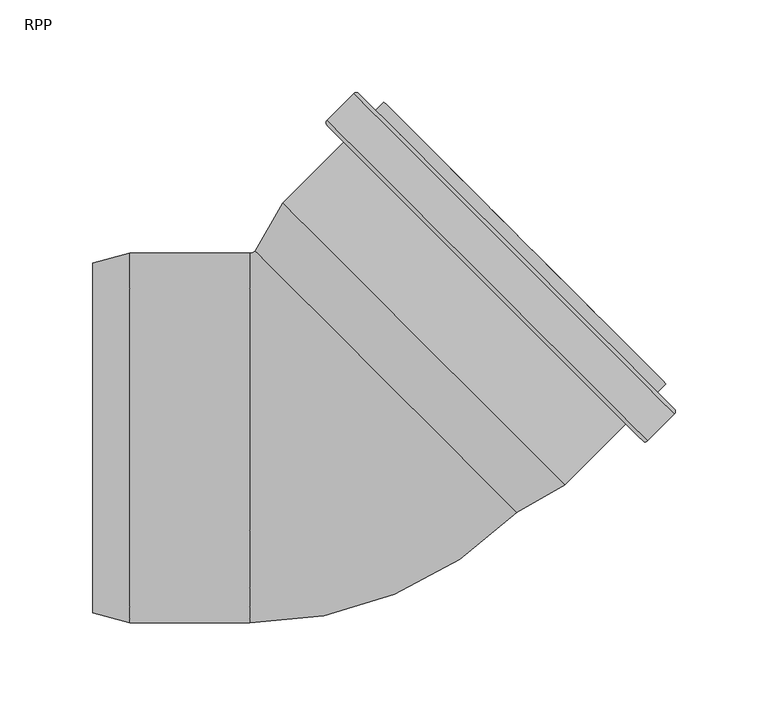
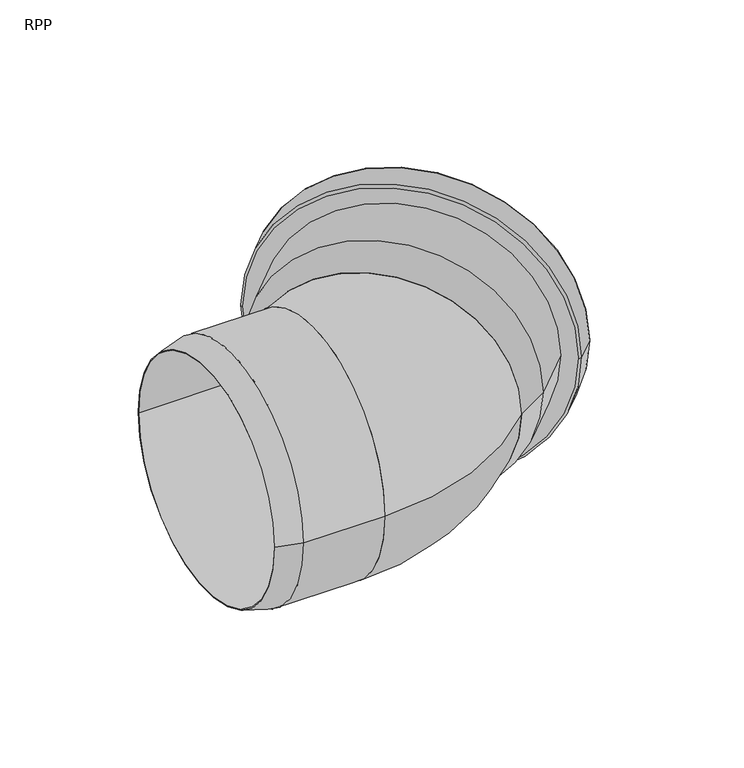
"""IFC4 building model written with IfcOpenShell, lengths in millimetres: pipe fitting geometry, RAUPIANO PLUS Bend : RPP."""

import ifcopenshell
import ifcopenshell.guid

model = None  # the IFC model being written
_history = None  # IfcOwnerHistory: only IFC2X3 demands one
_inside = {}  # id of a spatial element -> (the spatial element, [elements in it])
_under = {}  # id of a project, library or spatial element -> (it, [spatial elements below it])
_declared = {}  # id of a project -> (the project, [libraries it declares])
_typed = {}  # id of a type object -> (the type object, [elements of that type])
_made_of = {}  # id of a material, layer set ... -> (it, [elements and type objects made of it])


def new_model(schema):
    """Start an empty IFC model of exactly this schema.

    Asked for "IFC4X3", IfcOpenShell would pick the latest addendum, in which some entities
    have other attributes; the version numbers below select the first issue.
    IFC2X3 requires an IfcOwnerHistory on every rooted entity: one is made here for all.
    """
    global model, _history
    if schema == "IFC4X3":
        model = ifcopenshell.file(schema_version=(4, 3, 0, 0))
    else:
        model = ifcopenshell.file(schema=schema)
    _inside.clear()
    _under.clear()
    _declared.clear()
    _typed.clear()
    _made_of.clear()
    _history = None
    if model.schema == "IFC2X3":
        org = make("IfcOrganization", Name="unknown")
        user = make(
            "IfcPersonAndOrganization",
            ThePerson=make("IfcPerson", FamilyName="unknown"),
            TheOrganization=org,
        )
        app = make(
            "IfcApplication",
            ApplicationDeveloper=org,
            Version="unknown",
            ApplicationFullName="unknown",
            ApplicationIdentifier="unknown",
        )
        _history = make(
            "IfcOwnerHistory",
            OwningUser=user,
            OwningApplication=app,
            ChangeAction="ADDED",
            CreationDate=0,
        )
    return model


def make(cls, **values):
    """One entity of the class cls with the attributes given. An attribute that is None is left unset."""
    return model.create_entity(
        cls, **{name: value for name, value in values.items() if value is not None}
    )


def rooted(cls, **values):
    """An entity with a GlobalId (a new one), such as an element, a storey or a relation."""
    return make(cls, GlobalId=ifcopenshell.guid.new(), OwnerHistory=_history, **values)


def si_unit(unit_type, name, prefix=None):
    """IfcSIUnit, for example si_unit("LENGTHUNIT", "METRE", prefix="MILLI")."""
    return make("IfcSIUnit", UnitType=unit_type, Prefix=prefix, Name=name)


def assignment(units):
    """IfcUnitAssignment: the units of a project."""
    return None if units is None else make("IfcUnitAssignment", Units=units)


def point(xyz):
    """IfcCartesianPoint."""
    return None if xyz is None else make("IfcCartesianPoint", Coordinates=xyz)


def direction(xyz):
    """IfcDirection."""
    return None if xyz is None else make("IfcDirection", DirectionRatios=xyz)


def frame(location, z_axis=None, x_axis=None):
    """IfcAxis2Placement3D, a coordinate frame: its origin and axes. An axis left out is left unset."""
    return make(
        "IfcAxis2Placement3D",
        Location=point(location),
        Axis=direction(z_axis),
        RefDirection=direction(x_axis),
    )


def origin():
    """The frame at (0, 0, 0) with its axes left unset."""
    return frame((0.0, 0.0, 0.0))


def place(relative_to, where):
    """IfcLocalPlacement: puts the frame where relative to a parent placement (None: the world)."""
    return make(
        "IfcLocalPlacement", PlacementRelTo=relative_to, RelativePlacement=where
    )


def context(
    kind, dimensions, precision=None, world=None, true_north=None, identifier=None
):
    """IfcGeometricRepresentationContext, for example the 3D "Model" context."""
    return make(
        "IfcGeometricRepresentationContext",
        ContextIdentifier=identifier,
        ContextType=kind,
        CoordinateSpaceDimension=dimensions,
        Precision=precision,
        WorldCoordinateSystem=world,
        TrueNorth=true_north,
    )


def project(units=None, contexts=None):
    """IfcProject with its units and contexts."""
    return rooted(
        "IfcProject",
        Name="project",
        RepresentationContexts=contexts,
        UnitsInContext=assignment(units),
    )


def spatial(cls, under=None, at=None, **own):
    """A site, building, storey or space (cls), placed at a placement, below another one or the project."""
    s = rooted(cls, ObjectPlacement=at, **own)
    if under is not None:
        _under.setdefault(under.id(), (under, []))[1].append(s)
    return s


def polyline(points):
    """IfcPolyline through the points."""
    return make("IfcPolyline", Points=[point(p) for p in points])


def circle_curve(where, radius):
    """IfcCircle in the frame where."""
    return make("IfcCircle", Position=where, Radius=radius)


def ellipse_curve(where, semi_axis1, semi_axis2):
    """IfcEllipse in the frame where."""
    return make(
        "IfcEllipse", Position=where, SemiAxis1=semi_axis1, SemiAxis2=semi_axis2
    )


def trimmed(basis, trim1, trim2, sense, master):
    """IfcTrimmedCurve: the piece of a basis curve between two trims."""
    return make(
        "IfcTrimmedCurve",
        BasisCurve=basis,
        Trim1=trim1,
        Trim2=trim2,
        SenseAgreement=sense,
        MasterRepresentation=master,
    )


def shape(context_of_items, identifier, shape_type, items):
    """IfcShapeRepresentation: the items that make up one representation, for example the "Body"."""
    return make(
        "IfcShapeRepresentation",
        ContextOfItems=context_of_items,
        RepresentationIdentifier=identifier,
        RepresentationType=shape_type,
        Items=items,
    )


def source(mapping_origin, context_of_items, identifier, shape_type, items):
    """IfcRepresentationMap: a shape defined once, which mapped items show again and again."""
    return make(
        "IfcRepresentationMap",
        MappingOrigin=mapping_origin,
        MappedRepresentation=shape(context_of_items, identifier, shape_type, items),
    )


def transform(
    local_origin,
    x_axis=None,
    y_axis=None,
    z_axis=None,
    scale=None,
    scale2=None,
    scale3=None,
    uniform=True,
):
    """IfcCartesianTransformationOperator3D, or its non-uniform kind. x_axis, y_axis, z_axis: its Axis1, 2, 3."""
    if uniform:
        return make(
            "IfcCartesianTransformationOperator3D",
            Axis1=direction(x_axis),
            Axis2=direction(y_axis),
            LocalOrigin=point(local_origin),
            Scale=scale,
            Axis3=direction(z_axis),
        )
    return make(
        "IfcCartesianTransformationOperator3DnonUniform",
        Axis1=direction(x_axis),
        Axis2=direction(y_axis),
        LocalOrigin=point(local_origin),
        Scale=scale,
        Axis3=direction(z_axis),
        Scale2=scale2,
        Scale3=scale3,
    )


def mapped(mapping_source, mapping_target):
    """IfcMappedItem: shows the shape of a source again, moved by a transform."""
    return make(
        "IfcMappedItem", MappingSource=mapping_source, MappingTarget=mapping_target
    )


def made_of(thing, what):
    """Note that an element or type object is made of a material, layer set ...; save() writes the relation."""
    if what is not None:
        _made_of.setdefault(what.id(), (what, []))[1].append(thing)
    return thing


def element(
    cls,
    number,
    at=None,
    inside=None,
    cuts=None,
    type_object=None,
    material=None,
    context=None,
    identifier="Body",
    shape_type=None,
    held_by="IfcProductDefinitionShape",
    body=None,
    shapes=None,
    **own,
):
    """One element of the class cls, such as IfcWall. Its Tag is "e" and its number.

    at: its placement. inside: the storey or other place that contains it. cuts: it is an
    opening in that element (IfcRelVoidsElement). A single representation is given by context,
    identifier, shape_type and body (its items); several are given by shapes. held_by: the class
    of the entity that holds the representations. save() writes the other relations.
    """
    e = rooted(cls, Tag="e%d" % number, ObjectPlacement=at, **own)
    if body is not None:
        shapes = [shape(context, identifier, shape_type, body)]
    if shapes is not None:
        e.Representation = make(held_by, Representations=shapes)
    if inside is not None:
        _inside.setdefault(inside.id(), (inside, []))[1].append(e)
    if cuts is not None:
        rooted(
            "IfcRelVoidsElement", RelatingBuildingElement=cuts, RelatedOpeningElement=e
        )
    if type_object is not None:
        _typed.setdefault(type_object.id(), (type_object, []))[1].append(e)
    return made_of(e, material)


def aggregate(whole, parts):
    """IfcRelAggregates: a whole, such as a stair, and the parts it consists of."""
    return rooted("IfcRelAggregates", RelatingObject=whole, RelatedObjects=parts)


def save(model, path):
    """Write the relations noted so far, then the file.

    IfcRelAggregates (storeys below a building ...), IfcRelContainedInSpatialStructure (elements
    in a storey), IfcRelDefinesByType, IfcRelAssociatesMaterial and IfcRelDeclares: one each for
    every whole, place, type object, material and project.
    """
    for whole, parts in _under.values():
        aggregate(whole, parts)
    for where, things in _inside.values():
        rooted(
            "IfcRelContainedInSpatialStructure",
            RelatedElements=things,
            RelatingStructure=where,
        )
    for kind, things in _typed.values():
        rooted("IfcRelDefinesByType", RelatedObjects=things, RelatingType=kind)
    for what, things in _made_of.values():
        rooted("IfcRelAssociatesMaterial", RelatedObjects=things, RelatingMaterial=what)
    for by, libraries in _declared.values():
        rooted("IfcRelDeclares", RelatingContext=by, RelatedDefinitions=libraries)
    model.write(path)


def plane_surface(at):
    """IfcPlane: the flat surface through the origin of the frame at, square to its z axis."""
    return make("IfcPlane", Position=at)


def cylinder_surface(at, radius):
    """IfcCylindricalSurface: all points at the distance radius from the z axis of the frame at."""
    return make("IfcCylindricalSurface", Position=at, Radius=radius)


def revolved_surface(curve, axis_point, axis_direction):
    """IfcSurfaceOfRevolution: the curve turned about the line through axis_point along axis_direction."""
    return make(
        "IfcSurfaceOfRevolution",
        SweptCurve=make("IfcArbitraryOpenProfileDef", ProfileType="CURVE", Curve=curve),
        AxisPosition=make("IfcAxis1Placement", Location=point(axis_point), Axis=direction(axis_direction)),
    )


def advanced_brep(points, edges, surfaces, faces):
    """IfcAdvancedBrep: a solid bounded by faces that lie on surfaces and meet in shared edges.

    An edge is (start, end): straight between two places in points (the first is 0);
    or (start, end, curve); or (start, end, curve, False) where it runs against its curve.
    A face is (place in surfaces, loops), or (place, loops, False) where it looks against
    its surface's normal. A loop lists edges by number (the first is 1), with a minus sign
    where the edge is run from its end to its start. The first loop is the outer one.
    """
    corners = [point(p) for p in points]
    vertices = [make("IfcVertexPoint", VertexGeometry=c) for c in corners]
    made = []
    for start, end, *more in edges:
        made.append(
            make(
                "IfcEdgeCurve",
                EdgeStart=vertices[start],
                EdgeEnd=vertices[end],
                EdgeGeometry=more[0] if more else make("IfcPolyline", Points=[corners[start], corners[end]]),
                SameSense=more[1] if len(more) > 1 else True,
            )
        )
    hull = []
    for where, loops, *sense in faces:
        bounds = []
        for j, loop in enumerate(loops):
            ring = [make("IfcOrientedEdge", EdgeElement=made[abs(k) - 1], Orientation=k > 0) for k in loop]
            bounds.append(
                make(
                    "IfcFaceOuterBound" if j == 0 else "IfcFaceBound",
                    Bound=make("IfcEdgeLoop", EdgeList=ring),
                    Orientation=True,
                )
            )
        hull.append(make("IfcAdvancedFace", Bounds=bounds, FaceSurface=surfaces[where], SameSense=sense[0] if sense else True))
    return make("IfcAdvancedBrep", Outer=make("IfcClosedShell", CfsFaces=hull))


def rpp_419d8c31(model_context):
    return source(origin(), model_context, "Body", "AdvancedBrep", [
        advanced_brep(
        [(95.7543969, -34.8326074, 0.0), (-34.8326074, 95.7543969, 0.0), (-19.4530519, 122.3925684, 0.0), (122.3925684, -19.4530519, 0.0), (126.936275, -25.3745256, 0.0), (-25.3745256, 126.936275, 0.0), (-40.2497834, 101.1715729, 0.0), (101.1715729, -40.2497834, 0.0), (159.9321464, 7.6213457, 0.0), (7.6213457, 159.9321464, 0.0), (186.165808, 12.9246466, 0.0), (12.9246466, 186.165808, 0.0), (-1.4296211, 171.8115403, 0.0), (171.8115403, -1.4296211, 0.0), (181.6403246, 29.3295239, 0.0), (29.3295239, 181.6403246, 0.0), (24.8040405, 177.1148412, 0.0), (177.1148412, 24.8040405, 0.0), (166.6496608, 24.8040405, 0.0), (24.8040405, 166.6496608, 0.0), (34.5621141, 176.4077344, 0.0), (176.4077344, 34.5621141, 0.0), (170.7508801, 7.9748991, 0.0), (7.9748991, 170.7508801, 0.0), (13.9853068, 176.7612878, 0.0), (176.7612878, 13.9853068, 0.0), (18.0865261, 159.9321464, 0.0), (159.9321464, 18.0865261, 0.0), (-1.4296211, 168.9831132, 0.0), (168.9831132, -1.4296211, 0.0), (186.165808, 15.7530737, 0.0), (15.7530737, 186.165808, 0.0), (14.6924135, 176.7612878, 0.0), (176.7612878, 14.6924135, 0.0), (170.0437734, 7.9748991, 0.0), (7.9748991, 170.0437734, 0.0)],
        [
            (0, 1, circle_curve(frame((30.4608948, 30.4608948, 0.0), z_axis=(-0.7071067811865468, -0.7071067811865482, 0.0), x_axis=(-0.7071067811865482, 0.7071067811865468, 0.0)), 92.3389563)),
            (1, 2),
            (2, 3, circle_curve(frame((51.4697583, 51.4697583, 0.0), z_axis=(0.7071067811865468, 0.7071067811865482, 0.0), x_axis=(-0.7071067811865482, 0.7071067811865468, 0.0)), 100.3)),
            (3, 0),
            (4, 5, circle_curve(frame((50.7808747, 50.7808747, 0.0), z_axis=(-0.7071067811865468, -0.7071067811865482, 0.0), x_axis=(-0.7071067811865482, 0.7071067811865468, 0.0)), 107.7)),
            (5, 6),
            (6, 7, circle_curve(frame((30.4608948, 30.4608948, 0.0), z_axis=(0.7071067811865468, 0.7071067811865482, 0.0), x_axis=(-0.7071067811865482, 0.7071067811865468, 0.0)), 100.0)),
            (7, 4),
            (8, 9, circle_curve(frame((83.7767461, 83.7767461, 0.0), z_axis=(-0.7071067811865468, -0.7071067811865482, 0.0), x_axis=(-0.7071067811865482, 0.7071067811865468, 0.0)), 107.7)),
            (9, 5),
            (4, 8),
            (10, 11, circle_curve(frame((99.5452273, 99.5452273, 0.0), z_axis=(-0.7071067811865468, -0.7071067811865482, 0.0), x_axis=(-0.7071067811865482, 0.7071067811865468, 0.0)), 122.5)),
            (11, 12),
            (12, 13, circle_curve(frame((85.1909596, 85.1909596, 0.0), z_axis=(0.7071067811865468, 0.7071067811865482, 0.0), x_axis=(-0.7071067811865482, 0.7071067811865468, 0.0)), 122.5)),
            (13, 10),
            (14, 15, circle_curve(frame((105.4849242, 105.4849242, 0.0), z_axis=(-0.7071067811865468, -0.7071067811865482, 0.0), x_axis=(-0.7071067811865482, 0.7071067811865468, 0.0)), 107.7)),
            (15, 16),
            (16, 17, circle_curve(frame((100.9594408, 100.9594408, 0.0), z_axis=(0.7071067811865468, 0.7071067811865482, 0.0), x_axis=(-0.7071067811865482, 0.7071067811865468, 0.0)), 107.7)),
            (17, 14),
            (18, 19, circle_curve(frame((95.7268507, 95.7268507, 0.0), z_axis=(-0.7071067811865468, -0.7071067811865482, 0.0), x_axis=(-0.7071067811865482, 0.7071067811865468, 0.0)), 100.3)),
            (19, 20),
            (20, 21, circle_curve(frame((105.4849242, 105.4849242, 0.0), z_axis=(0.7071067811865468, 0.7071067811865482, 0.0), x_axis=(-0.7071067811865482, 0.7071067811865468, 0.0)), 100.3)),
            (21, 18),
            (22, 23, circle_curve(frame((89.3628896, 89.3628896, 0.0), z_axis=(-0.7071067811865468, -0.7071067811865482, 0.0), x_axis=(-0.7071067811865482, 0.7071067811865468, 0.0)), 115.1)),
            (23, 24),
            (24, 25, circle_curve(frame((95.3732973, 95.3732973, 0.0), z_axis=(0.7071067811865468, 0.7071067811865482, 0.0), x_axis=(-0.7071067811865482, 0.7071067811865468, 0.0)), 115.1)),
            (25, 22),
            (2, 26),
            (26, 27, circle_curve(frame((89.0093362, 89.0093362, 0.0), z_axis=(0.7071067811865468, 0.7071067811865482, 0.0), x_axis=(-0.7071067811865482, 0.7071067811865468, 0.0)), 100.3)),
            (27, 3),
            (1, 0, circle_curve(frame((30.4608948, 30.4608948, 0.0), z_axis=(-0.7071067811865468, -0.7071067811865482, 0.0), x_axis=(0.7071067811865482, -0.7071067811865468, 0.0)), 92.3389563)),
            (3, 2, circle_curve(frame((51.4697583, 51.4697583, 0.0), z_axis=(0.7071067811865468, 0.7071067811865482, 0.0), x_axis=(0.7071067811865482, -0.7071067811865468, 0.0)), 100.3)),
            (6, 7, circle_curve(frame((30.4608948, 30.4608948, 0.0), z_axis=(-0.7071067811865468, -0.7071067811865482, 0.0), x_axis=(0.7071067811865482, -0.7071067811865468, 0.0)), 100.0)),
            (5, 4, circle_curve(frame((50.7808747, 50.7808747, 0.0), z_axis=(-0.7071067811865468, -0.7071067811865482, 0.0), x_axis=(0.7071067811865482, -0.7071067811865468, 0.0)), 107.7)),
            (9, 8, circle_curve(frame((83.7767461, 83.7767461, 0.0), z_axis=(-0.7071067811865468, -0.7071067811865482, 0.0), x_axis=(0.7071067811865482, -0.7071067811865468, 0.0)), 107.7)),
            (28, 29, circle_curve(frame((83.7767461, 83.7767461, 0.0), z_axis=(-0.7071067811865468, -0.7071067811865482, 0.0), x_axis=(0.7071067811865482, -0.7071067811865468, 0.0)), 120.5)),
            (29, 28, circle_curve(frame((83.7767461, 83.7767461, 0.0), z_axis=(-0.7071067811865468, -0.7071067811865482, 0.0), x_axis=(-0.7071067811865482, 0.7071067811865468, 0.0)), 120.5)),
            (11, 10, circle_curve(frame((99.5452273, 99.5452273, 0.0), z_axis=(-0.7071067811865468, -0.7071067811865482, 0.0), x_axis=(0.7071067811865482, -0.7071067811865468, 0.0)), 122.5)),
            (13, 12, circle_curve(frame((85.1909596, 85.1909596, 0.0), z_axis=(0.7071067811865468, 0.7071067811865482, 0.0), x_axis=(0.7071067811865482, -0.7071067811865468, 0.0)), 122.5)),
            (30, 31, circle_curve(frame((100.9594408, 100.9594408, 0.0), z_axis=(0.7071067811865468, 0.7071067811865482, 0.0), x_axis=(0.7071067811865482, -0.7071067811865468, 0.0)), 120.5)),
            (31, 30, circle_curve(frame((100.9594408, 100.9594408, 0.0), z_axis=(0.7071067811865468, 0.7071067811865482, 0.0), x_axis=(-0.7071067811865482, 0.7071067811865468, 0.0)), 120.5)),
            (16, 17, circle_curve(frame((100.9594408, 100.9594408, 0.0), z_axis=(-0.7071067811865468, -0.7071067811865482, 0.0), x_axis=(0.7071067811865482, -0.7071067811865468, 0.0)), 107.7)),
            (15, 14, circle_curve(frame((105.4849242, 105.4849242, 0.0), z_axis=(-0.7071067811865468, -0.7071067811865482, 0.0), x_axis=(0.7071067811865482, -0.7071067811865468, 0.0)), 107.7)),
            (20, 21, circle_curve(frame((105.4849242, 105.4849242, 0.0), z_axis=(-0.7071067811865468, -0.7071067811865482, 0.0), x_axis=(0.7071067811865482, -0.7071067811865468, 0.0)), 100.3)),
            (19, 18, circle_curve(frame((95.7268507, 95.7268507, 0.0), z_axis=(-0.7071067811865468, -0.7071067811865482, 0.0), x_axis=(0.7071067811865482, -0.7071067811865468, 0.0)), 100.3)),
            (32, 33, circle_curve(frame((95.7268507, 95.7268507, 0.0), z_axis=(-0.7071067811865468, -0.7071067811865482, 0.0), x_axis=(0.7071067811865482, -0.7071067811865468, 0.0)), 114.6)),
            (33, 32, circle_curve(frame((95.7268507, 95.7268507, 0.0), z_axis=(-0.7071067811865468, -0.7071067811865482, 0.0), x_axis=(-0.7071067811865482, 0.7071067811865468, 0.0)), 114.6)),
            (23, 22, circle_curve(frame((89.3628896, 89.3628896, 0.0), z_axis=(-0.7071067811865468, -0.7071067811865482, 0.0), x_axis=(0.7071067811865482, -0.7071067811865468, 0.0)), 115.1)),
            (25, 24, circle_curve(frame((95.3732973, 95.3732973, 0.0), z_axis=(0.7071067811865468, 0.7071067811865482, 0.0), x_axis=(0.7071067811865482, -0.7071067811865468, 0.0)), 115.1)),
            (34, 35, circle_curve(frame((89.0093362, 89.0093362, 0.0), z_axis=(0.7071067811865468, 0.7071067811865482, 0.0), x_axis=(0.7071067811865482, -0.7071067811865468, 0.0)), 114.6)),
            (35, 34, circle_curve(frame((89.0093362, 89.0093362, 0.0), z_axis=(0.7071067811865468, 0.7071067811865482, 0.0), x_axis=(-0.7071067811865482, 0.7071067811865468, 0.0)), 114.6)),
            (26, 27, circle_curve(frame((89.0093362, 89.0093362, 0.0), z_axis=(-0.7071067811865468, -0.7071067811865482, 0.0), x_axis=(0.7071067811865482, -0.7071067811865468, 0.0)), 100.3)),
            (12, 28, circle_curve(frame((-0.0154075, 170.3973268, 0.0), z_axis=(0.0, 0.0, 1.0), x_axis=(0.7071067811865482, -0.7071067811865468, 0.0)), 2.0)),
            (29, 13, circle_curve(frame((170.3973268, -0.0154075, 0.0), z_axis=(0.0, 0.0, 1.0), x_axis=(-0.7071067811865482, 0.7071067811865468, 0.0)), 2.0)),
            (31, 11, circle_curve(frame((14.3388601, 184.7515944, 0.0), z_axis=(0.0, 0.0, 1.0), x_axis=(0.7071067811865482, -0.7071067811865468, 0.0)), 2.0)),
            (10, 30, circle_curve(frame((184.7515944, 14.3388601, 0.0), z_axis=(0.0, 0.0, 1.0), x_axis=(-0.7071067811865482, 0.7071067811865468, 0.0)), 2.0)),
            (24, 32, circle_curve(frame((14.3388601, 176.4077344, 0.0), z_axis=(0.0, 0.0, -1.0), x_axis=(0.7071067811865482, -0.7071067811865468, 0.0)), 0.5)),
            (33, 25, circle_curve(frame((176.4077344, 14.3388601, 0.0), z_axis=(0.0, 0.0, -1.0), x_axis=(-0.7071067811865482, 0.7071067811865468, 0.0)), 0.5)),
            (35, 23, circle_curve(frame((8.3284525, 170.3973268, 0.0), z_axis=(0.0, 0.0, -1.0), x_axis=(0.7071067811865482, -0.7071067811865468, 0.0)), 0.5)),
            (22, 34, circle_curve(frame((170.3973268, 8.3284525, 0.0), z_axis=(0.0, 0.0, -1.0), x_axis=(-0.7071067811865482, 0.7071067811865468, 0.0)), 0.5)),
        ],
        [
            revolved_surface(polyline([(-19.4530519, 122.3925684, 0.0), (-34.8326074, 95.7543969, 0.0)]), (30.4608948, 30.4608948, 0.0), (0.7071067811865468, 0.7071067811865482, 0.0)),
            revolved_surface(polyline([(-40.2497834, 101.1715729, 0.0), (-25.3745256, 126.936275, 0.0)]), (30.4608948, 30.4608948, 0.0), (0.7071067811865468, 0.7071067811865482, 0.0)),
            cylinder_surface(frame((30.4608948, 30.4608948, 0.0), z_axis=(0.7071067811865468, 0.7071067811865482, 0.0), x_axis=(-0.7071067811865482, 0.7071067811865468, 0.0)), 107.7),
            cylinder_surface(frame((30.4608948, 30.4608948, 0.0), z_axis=(0.7071067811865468, 0.7071067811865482, 0.0), x_axis=(-0.7071067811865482, 0.7071067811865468, 0.0)), 122.5),
            revolved_surface(polyline([(34.56211409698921, 176.4077344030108, 0.0), (24.804040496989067, 166.64966080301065, 0.0)]), (30.4608948, 30.4608948, 0.0), (0.7071067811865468, 0.7071067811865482, 0.0)),
            revolved_surface(polyline([(13.985306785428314, 176.7612878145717, 0.0), (7.974899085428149, 170.7508801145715, 0.0)]), (30.4608948, 30.4608948, 0.0), (0.7071067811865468, 0.7071067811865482, 0.0)),
            revolved_surface(polyline([(18.086526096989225, 159.93214640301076, 0.0), (-19.45305190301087, 122.3925684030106, 0.0)]), (30.4608948, 30.4608948, 0.0), (0.7071067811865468, 0.7071067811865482, 0.0)),
            revolved_surface(polyline([(122.3925684, -19.4530519, 0.0), (95.7543969, -34.8326074, 0.0)]), (30.4608948, 30.4608948, 0.0), (0.7071067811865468, 0.7071067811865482, 0.0)),
            plane_surface(frame((30.4608948, 30.4608948, 0.0), z_axis=(-0.7071067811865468, -0.7071067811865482, 0.0), x_axis=(0.7071067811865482, -0.7071067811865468, 0.0))),
            revolved_surface(polyline([(101.1715729, -40.2497834, 0.0), (126.936275, -25.3745256, 0.0)]), (30.4608948, 30.4608948, 0.0), (0.7071067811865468, 0.7071067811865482, 0.0)),
            cylinder_surface(frame((30.4608948, 30.4608948, 0.0), z_axis=(0.7071067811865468, 0.7071067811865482, 0.0), x_axis=(0.7071067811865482, -0.7071067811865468, 0.0)), 107.7),
            plane_surface(frame((83.7767461, 83.7767461, 0.0), z_axis=(-0.7071067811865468, -0.7071067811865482, 0.0), x_axis=(0.7071067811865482, -0.7071067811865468, 0.0))),
            cylinder_surface(frame((30.4608948, 30.4608948, 0.0), z_axis=(0.7071067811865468, 0.7071067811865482, 0.0), x_axis=(0.7071067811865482, -0.7071067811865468, 0.0)), 122.5),
            plane_surface(frame((100.9594408, 100.9594408, 0.0), z_axis=(0.7071067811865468, 0.7071067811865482, 0.0), x_axis=(0.7071067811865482, -0.7071067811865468, 0.0))),
            plane_surface(frame((105.4849242, 105.4849242, 0.0), z_axis=(0.7071067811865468, 0.7071067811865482, 0.0), x_axis=(0.7071067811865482, -0.7071067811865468, 0.0))),
            revolved_surface(polyline([(176.40773440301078, 34.56211409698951, 0.0), (166.64966080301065, 24.80404049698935, 0.0)]), (30.4608948, 30.4608948, 0.0), (0.7071067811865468, 0.7071067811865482, 0.0)),
            plane_surface(frame((95.7268507, 95.7268507, 0.0), z_axis=(-0.7071067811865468, -0.7071067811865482, 0.0), x_axis=(0.7071067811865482, -0.7071067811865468, 0.0))),
            revolved_surface(polyline([(176.76128781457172, 13.985306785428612, 0.0), (170.75088011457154, 7.97489908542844, 0.0)]), (30.4608948, 30.4608948, 0.0), (0.7071067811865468, 0.7071067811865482, 0.0)),
            plane_surface(frame((89.0093362, 89.0093362, 0.0), z_axis=(0.7071067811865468, 0.7071067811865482, 0.0), x_axis=(0.7071067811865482, -0.7071067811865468, 0.0))),
            revolved_surface(polyline([(159.9321464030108, 18.086526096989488, 0.0), (122.3925684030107, -19.453051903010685, 0.0)]), (30.4608948, 30.4608948, 0.0), (0.7071067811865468, 0.7071067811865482, 0.0)),
            revolved_surface(trimmed(ellipse_curve(frame((-0.0154075, 170.3973268, 0.0), z_axis=(0.0, 0.0, -1.0), x_axis=(0.7071067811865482, -0.7071067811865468, 0.0)), 2.0, 2.0), [point((-1.4296211, 168.9831132, 0.0))], [point((-1.4296211, 171.8115403, 0.0))], True, "CARTESIAN"), (30.4608948, 30.4608948, 0.0), (0.7071067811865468, 0.7071067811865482, 0.0)),
            revolved_surface(trimmed(ellipse_curve(frame((14.3388601, 184.7515944, 0.0), z_axis=(0.0, 0.0, -1.0), x_axis=(0.7071067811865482, -0.7071067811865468, 0.0)), 2.0, 2.0), [point((12.9246466, 186.165808, 0.0))], [point((15.7530737, 186.165808, 0.0))], True, "CARTESIAN"), (30.4608948, 30.4608948, 0.0), (0.7071067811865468, 0.7071067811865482, 0.0)),
            revolved_surface(trimmed(ellipse_curve(frame((14.3388601, 176.4077344, 0.0), z_axis=(0.0, 0.0, 1.0), x_axis=(0.7071067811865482, -0.7071067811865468, 0.0)), 0.5, 0.5), [point((14.6924135, 176.7612878, 0.0))], [point((13.9853068, 176.7612878, 0.0))], True, "CARTESIAN"), (30.4608948, 30.4608948, 0.0), (0.7071067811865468, 0.7071067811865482, 0.0)),
            revolved_surface(trimmed(ellipse_curve(frame((8.3284525, 170.3973268, 0.0), z_axis=(0.0, 0.0, 1.0), x_axis=(0.7071067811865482, -0.7071067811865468, 0.0)), 0.5, 0.5), [point((7.9748991, 170.7508801, 0.0))], [point((7.9748991, 170.0437734, 0.0))], True, "CARTESIAN"), (30.4608948, 30.4608948, 0.0), (0.7071067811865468, 0.7071067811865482, 0.0)),
            revolved_surface(trimmed(ellipse_curve(frame((170.3973268, -0.0154075, 0.0), z_axis=(0.0, 0.0, 1.0), x_axis=(-0.7071067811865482, 0.7071067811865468, 0.0)), 2.0, 2.0), [point((168.9831132, -1.4296211, 0.0))], [point((171.8115403, -1.4296211, 0.0))], True, "CARTESIAN"), (30.4608948, 30.4608948, 0.0), (0.7071067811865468, 0.7071067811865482, 0.0)),
            revolved_surface(trimmed(ellipse_curve(frame((184.7515944, 14.3388601, 0.0), z_axis=(0.0, 0.0, 1.0), x_axis=(-0.7071067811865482, 0.7071067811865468, 0.0)), 2.0, 2.0), [point((186.165808, 12.9246466, 0.0))], [point((186.165808, 15.7530737, 0.0))], True, "CARTESIAN"), (30.4608948, 30.4608948, 0.0), (0.7071067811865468, 0.7071067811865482, 0.0)),
            revolved_surface(trimmed(ellipse_curve(frame((176.4077344, 14.3388601, 0.0), z_axis=(0.0, 0.0, -1.0), x_axis=(-0.7071067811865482, 0.7071067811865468, 0.0)), 0.5, 0.5), [point((176.7612878, 14.6924135, 0.0))], [point((176.7612878, 13.9853068, 0.0))], True, "CARTESIAN"), (30.4608948, 30.4608948, 0.0), (0.7071067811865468, 0.7071067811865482, 0.0)),
            revolved_surface(trimmed(ellipse_curve(frame((170.3973268, 8.3284525, 0.0), z_axis=(0.0, 0.0, -1.0), x_axis=(-0.7071067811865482, 0.7071067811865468, 0.0)), 0.5, 0.5), [point((170.7508801, 7.9748991, 0.0))], [point((170.0437734, 7.9748991, 0.0))], True, "CARTESIAN"), (30.4608948, 30.4608948, 0.0), (0.7071067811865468, 0.7071067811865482, 0.0)),
        ],
        [
            (0, [[1, 2, 3, 4]]),
            (1, [[5, 6, 7, 8]]),
            (2, [[9, 10, -5, 11]]),
            (3, [[12, 13, 14, 15]]),
            (2, [[16, 17, 18, 19]]),
            (4, [[20, 21, 22, 23]]),
            (5, [[24, 25, 26, 27]]),
            (6, [[-3, 28, 29, 30]]),
            (7, [[31, -4, 32, -2]]),
            (8, [[33, -7], [-31, -1]]),
            (9, [[34, -8, -33, -6]]),
            (10, [[35, -11, -34, -10]]),
            (11, [[36, 37], [-35, -9]]),
            (12, [[38, -15, 39, -13]]),
            (13, [[40, 41], [42, -18]]),
            (10, [[43, -19, -42, -17]]),
            (14, [[-43, -16], [44, -22]]),
            (15, [[45, -23, -44, -21]]),
            (16, [[46, 47], [-45, -20]]),
            (17, [[48, -27, 49, -25]]),
            (18, [[50, 51], [52, -29]]),
            (19, [[-32, -30, -52, -28]]),
            (20, [[-14, 53, -37, 54]]),
            (21, [[-41, 55, -12, 56]]),
            (22, [[-26, 57, -47, 58]]),
            (23, [[-51, 59, -24, 60]]),
            (24, [[-39, -54, -36, -53]]),
            (25, [[-40, -56, -38, -55]]),
            (26, [[-49, -58, -46, -57]]),
            (27, [[-50, -60, -48, -59]]),
        ],
    ),
        advanced_brep(
        [(-43.0782105, 93.8, 0.0), (-43.0782105, -93.8, 0.0), (-128.0782105, -93.8, 0.0), (-128.0782105, 93.8, 0.0), (-107.9251361, 100.0, 0.0), (-107.9251361, -100.0, 0.0), (-43.0782105, -100.0, 0.0), (-43.0782105, 100.0, 0.0), (-128.0782105, 94.6, 0.0), (-128.0782105, -94.6, 0.0)],
        [
            (0, 1, circle_curve(frame((-43.0782105, 0.0, 0.0), z_axis=(1.0, 0.0, 0.0), x_axis=(0.0, -1.0, 0.0)), 93.8)),
            (1, 2),
            (2, 3, circle_curve(frame((-128.0782105, 0.0, 0.0), z_axis=(-1.0, 0.0, 0.0), x_axis=(0.0, -1.0, 0.0)), 93.8)),
            (3, 0),
            (4, 5, circle_curve(frame((-107.9251361, 0.0, 0.0), z_axis=(1.0, 0.0, 0.0), x_axis=(0.0, -1.0, 0.0)), 100.0)),
            (5, 6),
            (6, 7, circle_curve(frame((-43.0782105, 0.0, 0.0), z_axis=(-1.0, 0.0, 0.0), x_axis=(0.0, -1.0, 0.0)), 100.0)),
            (7, 4),
            (8, 9, circle_curve(frame((-128.0782105, 0.0, 0.0), z_axis=(1.0, 0.0, 0.0), x_axis=(0.0, -1.0, 0.0)), 94.6)),
            (9, 5),
            (4, 8),
            (1, 0, circle_curve(frame((-43.0782105, 0.0, 0.0), z_axis=(1.0, 0.0, 0.0), x_axis=(0.0, 1.0, 0.0)), 93.8)),
            (3, 2, circle_curve(frame((-128.0782105, 0.0, 0.0), z_axis=(-1.0, 0.0, 0.0), x_axis=(0.0, 1.0, 0.0)), 93.8)),
            (6, 7, circle_curve(frame((-43.0782105, 0.0, 0.0), z_axis=(1.0, 0.0, 0.0), x_axis=(0.0, 1.0, 0.0)), 100.0)),
            (5, 4, circle_curve(frame((-107.9251361, 0.0, 0.0), z_axis=(1.0, 0.0, 0.0), x_axis=(0.0, 1.0, 0.0)), 100.0)),
            (9, 8, circle_curve(frame((-128.0782105, 0.0, 0.0), z_axis=(1.0, 0.0, 0.0), x_axis=(0.0, 1.0, 0.0)), 94.6)),
        ],
        [
            revolved_surface(polyline([(-128.0782105, -93.8, 0.0), (-43.0782105, -93.8, 0.0)]), (-43.0782105, 0.0, 0.0), (-1.0, 0.0, 0.0)),
            cylinder_surface(frame((-43.0782105, 0.0, 0.0), z_axis=(-1.0, 0.0, 0.0), x_axis=(0.0, -1.0, 0.0)), 100.0),
            revolved_surface(polyline([(-107.9251361, -100.0, 0.0), (-128.0782105, -94.6, 0.0)]), (-43.0782105, 0.0, 0.0), (-1.0, 0.0, 0.0)),
            revolved_surface(polyline([(-128.0782105, 93.8, 0.0), (-43.0782105, 93.8, 0.0)]), (-43.0782105, 0.0, 0.0), (-1.0, 0.0, 0.0)),
            plane_surface(frame((-43.0782105, 0.0, 0.0), z_axis=(1.0, 0.0, 0.0), x_axis=(0.0, 1.0, 0.0))),
            cylinder_surface(frame((-43.0782105, 0.0, 0.0), z_axis=(-1.0, 0.0, 0.0), x_axis=(0.0, 1.0, 0.0)), 100.0),
            revolved_surface(polyline([(-107.9251361, 100.0, 0.0), (-128.0782105, 94.6, 0.0)]), (-43.0782105, 0.0, 0.0), (-1.0, 0.0, 0.0)),
            plane_surface(frame((-128.0782105, 0.0, 0.0), z_axis=(-1.0, 0.0, 0.0), x_axis=(0.0, 1.0, 0.0))),
        ],
        [
            (0, [[1, 2, 3, 4]]),
            (1, [[5, 6, 7, 8]]),
            (2, [[9, 10, -5, 11]]),
            (3, [[12, -4, 13, -2]]),
            (4, [[14, -7], [-12, -1]]),
            (5, [[15, -8, -14, -6]]),
            (6, [[16, -11, -15, -10]]),
            (7, [[-16, -9], [-13, -3]]),
        ],
    ),
        advanced_brep(
        [(-43.0782105, -100.0, 0.0), (-43.0782105, 100.0, 0.0), (-43.0782105, -93.8, 0.0), (-43.0782105, 93.8, 0.0), (101.1715729, -40.2497834, 0.0), (-40.2497834, 101.1715729, 0.0), (96.7875108, -35.8657213, 0.0), (-35.8657213, 96.7875108, 0.0)],
        [
            (0, 1, circle_curve(frame((-43.0782105, 0.0, 0.0), z_axis=(-1.0, 0.0, 0.0), x_axis=(0.0, 1.0, 0.0)), 100.0)),
            (1, 0, circle_curve(frame((-43.0782105, 0.0, 0.0), z_axis=(-1.0, 0.0, 0.0), x_axis=(0.0, 1.0, 0.0)), 100.0)),
            (2, 3, circle_curve(frame((-43.0782105, 0.0, 0.0), z_axis=(1.0, 0.0, 0.0), x_axis=(0.0, 1.0, 0.0)), 93.8)),
            (3, 2, circle_curve(frame((-43.0782105, 0.0, 0.0), z_axis=(1.0, 0.0, 0.0), x_axis=(0.0, 1.0, 0.0)), 93.8)),
            (4, 5, circle_curve(frame((30.4608948, 30.4608948, 0.0), z_axis=(0.7071067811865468, 0.7071067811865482, 0.0), x_axis=(-0.7071067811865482, 0.7071067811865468, 0.0)), 100.0)),
            (5, 4, circle_curve(frame((30.4608948, 30.4608948, 0.0), z_axis=(0.7071067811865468, 0.7071067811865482, 0.0), x_axis=(-0.7071067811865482, 0.7071067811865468, 0.0)), 100.0)),
            (6, 7, circle_curve(frame((30.4608948, 30.4608948, 0.0), z_axis=(-0.7071067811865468, -0.7071067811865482, 0.0), x_axis=(-0.7071067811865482, 0.7071067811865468, 0.0)), 93.8)),
            (7, 6, circle_curve(frame((30.4608948, 30.4608948, 0.0), z_axis=(-0.7071067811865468, -0.7071067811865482, 0.0), x_axis=(-0.7071067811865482, 0.7071067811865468, 0.0)), 93.8)),
            (7, 3, circle_curve(frame((-43.0782105, 104.0, 0.0), z_axis=(0.0, 0.0, -1.0), x_axis=(0.0, -1.0, 0.0)), 10.2)),
            (2, 6, circle_curve(frame((-43.0782105, 104.0, 0.0), z_axis=(0.0, 0.0, 1.0), x_axis=(0.0, -1.0, 0.0)), 197.8)),
            (5, 1, circle_curve(frame((-43.0782105, 104.0, 0.0), z_axis=(0.0, 0.0, -1.0), x_axis=(0.0, -1.0, 0.0)), 4.0)),
            (0, 4, circle_curve(frame((-43.0782105, 104.0, 0.0), z_axis=(0.0, 0.0, 1.0), x_axis=(0.0, -1.0, 0.0)), 204.0)),
        ],
        [
            plane_surface(frame((-43.0782105, 0.0, 0.0), z_axis=(-1.0, 0.0, 0.0), x_axis=(0.0, 0.0, 1.0))),
            plane_surface(frame((30.4608948, 30.4608948, 0.0), z_axis=(0.7071067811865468, 0.7071067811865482, 0.0), x_axis=(0.0, 0.0, 1.0))),
            revolved_surface(trimmed(ellipse_curve(frame((-43.0782105, 0.0, 0.0), z_axis=(1.0, 0.0, 0.0), x_axis=(0.0, 1.0, 0.0)), 93.8, 93.8), [point((-43.0782105, -93.8, 0.0))], [point((-43.0782105, 93.8, 0.0))], True, "CARTESIAN"), (-43.0782105, 104.0, 0.0), (0.0, 0.0, 1.0)),
            revolved_surface(trimmed(ellipse_curve(frame((-43.0782105, 0.0, 0.0), z_axis=(1.0, 0.0, 0.0), x_axis=(0.0, 1.0, 0.0)), 93.8, 93.8), [point((-43.0782105, 93.8, 0.0))], [point((-43.0782105, -93.8, 0.0))], True, "CARTESIAN"), (-43.0782105, 104.0, 0.0), (0.0, 0.0, 1.0)),
            revolved_surface(trimmed(ellipse_curve(frame((-43.0782105, 0.0, 0.0), z_axis=(-1.0, 0.0, 0.0), x_axis=(0.0, 1.0, 0.0)), 100.0, 100.0), [point((-43.0782105, -100.0, 0.0))], [point((-43.0782105, 100.0, 0.0))], True, "CARTESIAN"), (-43.0782105, 104.0, 0.0), (0.0, 0.0, 1.0)),
            revolved_surface(trimmed(ellipse_curve(frame((-43.0782105, 0.0, 0.0), z_axis=(-1.0, 0.0, 0.0), x_axis=(0.0, 1.0, 0.0)), 100.0, 100.0), [point((-43.0782105, 100.0, 0.0))], [point((-43.0782105, -100.0, 0.0))], True, "CARTESIAN"), (-43.0782105, 104.0, 0.0), (0.0, 0.0, 1.0)),
        ],
        [
            (0, [[1, 2], [3, 4]]),
            (1, [[5, 6], [7, 8]]),
            (2, [[9, -3, 10, -8]]),
            (3, [[-10, -4, -9, -7]]),
            (4, [[11, -1, 12, -6]]),
            (5, [[-12, -2, -11, -5]]),
        ],
    ),
    ])


if __name__ == "__main__":
    model = new_model("IFC4")
    model_context = context("Model", 3, world=origin())
    ifc_project = project(units=[si_unit("LENGTHUNIT", "METRE", prefix="MILLI")], contexts=[model_context])
    site = spatial("IfcSite", under=ifc_project)
    building = spatial("IfcBuilding", under=site)
    placement = place(None, origin())
    rpp_shape = rpp_419d8c31(model_context)
    element("IfcPipeFitting", 1, ObjectType="RAUPIANO PLUS Bend : RPP", at=placement, inside=building, context=model_context, shape_type="MappedRepresentation", body=[
        mapped(rpp_shape, transform((0.0, 0.0, 0.0), x_axis=(1.0, 0.0, 0.0), y_axis=(0.0, 1.0, 0.0), z_axis=(0.0, 0.0, 1.0))),
    ])
    save(model, "model.ifc")
